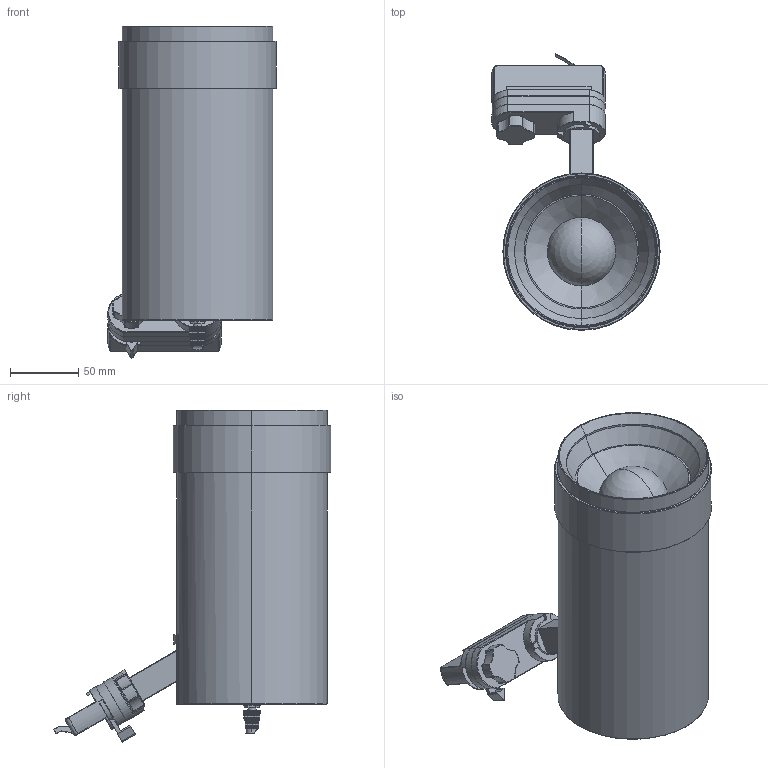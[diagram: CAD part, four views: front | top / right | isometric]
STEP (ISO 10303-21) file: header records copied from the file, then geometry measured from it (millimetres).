
FILE_DESCRIPTION((''),'2;1');
FILE_NAME('SPACEGUN3500','2025-04-01T09:39:25',('ALY'),(''),'CREO PARAMETRIC BY PTC INC, 2022164','CREO PARAMETRIC BY PTC INC, 2022164','');
FILE_SCHEMA(('AUTOMOTIVE_DESIGN { 1 0 10303 214 1 1 1 1 }'));
Length unit declared in the file: millimetre
Products named in the file (1): SPACEGUN3500
Bounding box: 123 x 202.62 x 242.74 mm (x, y, z)
Volume: 1364427.4 mm3; surface area: 595276.2 mm2
Topology: 2 solids, 106 shells, 1664 faces, 3997 edges, 2569 vertices
Faces by surface type: plane 1344, cylinder 131, cone 126, torus 49, sphere 8, bspline 6
Entity records: 59686 total; most frequent: CARTESIAN_POINT 8838, ORIENTED_EDGE 7982, DIRECTION 7977, EDGE_CURVE 3991, VECTOR 3229, LINE 3229, VERTEX_POINT 2569, AXIS2_PLACEMENT_3D 2374
